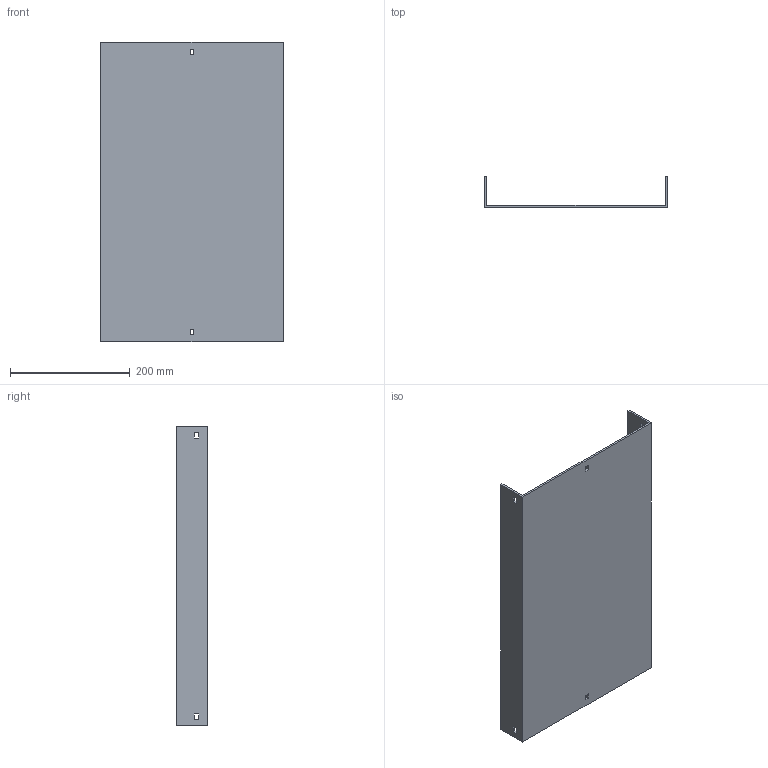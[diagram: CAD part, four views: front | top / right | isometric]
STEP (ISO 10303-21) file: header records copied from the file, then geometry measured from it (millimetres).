
FILE_DESCRIPTION (( 'STEP AP214' ), '1' );
FILE_NAME ('03F7B300.step', '2025-02-21T13:24:48', ( '' ), ( '' ), 'SwSTEP 2.0', 'SolidWorks 2023', '' );
FILE_SCHEMA (( 'AUTOMOTIVE_DESIGN' ));
Length unit declared in the file: millimetre
Products named in the file (1): 03F7B300
Bounding box: 304 x 52 x 500 mm (x, y, z)
Volume: 700360.5 mm3; surface area: 407206 mm2
Topology: 1 solids, 1 shells, 34 faces, 96 edges, 64 vertices
Faces by surface type: plane 34
Entity records: 1127 total; most frequent: CARTESIAN_POINT 195, ORIENTED_EDGE 192, DIRECTION 166, LINE 96, VECTOR 96, EDGE_CURVE 96, VERTEX_POINT 64, EDGE_LOOP 46
